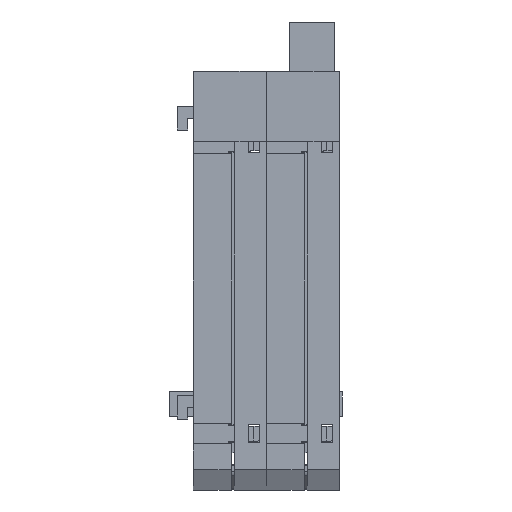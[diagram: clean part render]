
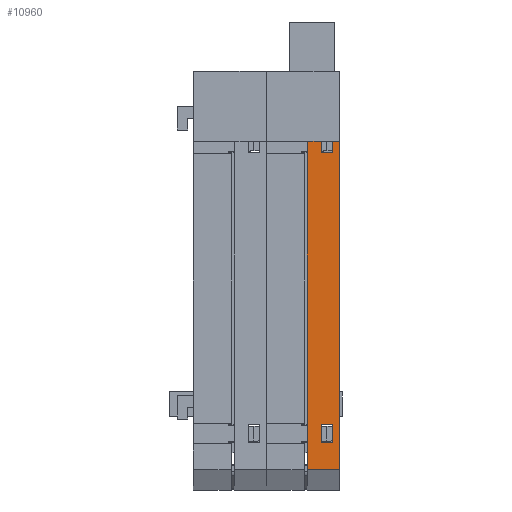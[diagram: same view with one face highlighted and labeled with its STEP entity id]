
A CAD part, front view. The second image highlights one B-rep face of the part: STEP entity #10960.
In plain terms, the highlighted planar face has unit normal (0, -1, 0).
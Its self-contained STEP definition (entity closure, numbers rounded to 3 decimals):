
#292 = ORIENTED_EDGE ( 'NONE', *, *, #30344, .T. ) ;
#1549 = CARTESIAN_POINT ( 'NONE',  ( 5.5, 0., 0. ) ) ;
#2858 = VECTOR ( 'NONE', #25573, 1000. ) ;
#3030 = LINE ( 'NONE', #31835, #28024 ) ;
#3092 = EDGE_CURVE ( 'NONE', #30986, #12986, #29943, .T. ) ;
#3190 = DIRECTION ( 'NONE',  ( 1., 0., 0. ) ) ;
#4484 = CARTESIAN_POINT ( 'NONE',  ( 2.4, 0., -7.845 ) ) ;
#4517 = CARTESIAN_POINT ( 'NONE',  ( 2.4, 0., -10.945 ) ) ;
#5384 = DIRECTION ( 'NONE',  ( 0., 0., 1. ) ) ;
#7336 = VECTOR ( 'NONE', #33140, 1000. ) ;
#8278 = VECTOR ( 'NONE', #22503, 1000. ) ;
#8928 = ORIENTED_EDGE ( 'NONE', *, *, #45603, .T. ) ;
#8966 = EDGE_LOOP ( 'NONE', ( #10527, #33510, #46599, #15427 ) ) ;
#9002 = EDGE_CURVE ( 'NONE', #32105, #30986, #3030, .T. ) ;
#9016 = ORIENTED_EDGE ( 'NONE', *, *, #24546, .F. ) ;
#9381 = DIRECTION ( 'NONE',  ( 0., 0., -1. ) ) ;
#9889 = CARTESIAN_POINT ( 'NONE',  ( 4.4, 0., -60.645 ) ) ;
#10527 = ORIENTED_EDGE ( 'NONE', *, *, #31301, .T. ) ;
#10641 = VECTOR ( 'NONE', #46235, 1000. ) ;
#10960 = ADVANCED_FACE ( 'NONE', ( #24443, #39907, #37001 ), #35329, .F. ) ;
#11100 = EDGE_LOOP ( 'NONE', ( #292, #9016, #28479, #8928 ) ) ;
#11451 = VECTOR ( 'NONE', #43944, 1000. ) ;
#11629 = CARTESIAN_POINT ( 'NONE',  ( 5.5, 0., -65.25 ) ) ;
#11921 = VECTOR ( 'NONE', #44932, 1000. ) ;
#12331 = CARTESIAN_POINT ( 'NONE',  ( 2.4, 0., -57.545 ) ) ;
#12514 = LINE ( 'NONE', #42953, #41429 ) ;
#12970 = CARTESIAN_POINT ( 'NONE',  ( 5.5, 0., 0. ) ) ;
#12986 = VERTEX_POINT ( 'NONE', #37970 ) ;
#13066 = VERTEX_POINT ( 'NONE', #4484 ) ;
#13189 = ORIENTED_EDGE ( 'NONE', *, *, #42218, .T. ) ;
#14358 = DIRECTION ( 'NONE',  ( 0., 0., -1. ) ) ;
#15427 = ORIENTED_EDGE ( 'NONE', *, *, #21725, .T. ) ;
#15434 = VECTOR ( 'NONE', #14358, 1000. ) ;
#17948 = LINE ( 'NONE', #11629, #26768 ) ;
#18025 = CARTESIAN_POINT ( 'NONE',  ( 2.4, 0., -10.945 ) ) ;
#18137 = CARTESIAN_POINT ( 'NONE',  ( 2.4, 0., -7.845 ) ) ;
#18261 = CARTESIAN_POINT ( 'NONE',  ( 0., 0., 0. ) ) ;
#18627 = CARTESIAN_POINT ( 'NONE',  ( 4.4, 0., -57.545 ) ) ;
#18651 = VECTOR ( 'NONE', #3190, 1000. ) ;
#19348 = CARTESIAN_POINT ( 'NONE',  ( 4.4, 0., -10.945 ) ) ;
#21328 = VECTOR ( 'NONE', #38735, 1000. ) ;
#21668 = LINE ( 'NONE', #44473, #2858 ) ;
#21725 = EDGE_CURVE ( 'NONE', #29976, #43153, #40400, .T. ) ;
#22238 = AXIS2_PLACEMENT_3D ( 'NONE', #1549, #27832, #5384 ) ;
#22503 = DIRECTION ( 'NONE',  ( -1., 0., 0. ) ) ;
#22696 = EDGE_CURVE ( 'NONE', #39646, #27577, #31310, .T. ) ;
#22922 = DIRECTION ( 'NONE',  ( -1., 0., 0. ) ) ;
#23358 = CARTESIAN_POINT ( 'NONE',  ( 4.4, 0., -7.845 ) ) ;
#24443 = FACE_BOUND ( 'NONE', #45348, .T. ) ;
#24546 = EDGE_CURVE ( 'NONE', #28331, #47523, #17948, .T. ) ;
#25573 = DIRECTION ( 'NONE',  ( -1., 0., 0. ) ) ;
#26596 = EDGE_CURVE ( 'NONE', #40722, #28331, #12514, .T. ) ;
#26652 = CARTESIAN_POINT ( 'NONE',  ( 0., 0., 0. ) ) ;
#26768 = VECTOR ( 'NONE', #22922, 1000. ) ;
#26945 = VERTEX_POINT ( 'NONE', #26652 ) ;
#27577 = VERTEX_POINT ( 'NONE', #12331 ) ;
#27832 = DIRECTION ( 'NONE',  ( 0., 1., 0. ) ) ;
#28024 = VECTOR ( 'NONE', #9381, 1000. ) ;
#28331 = VERTEX_POINT ( 'NONE', #32325 ) ;
#28460 = EDGE_CURVE ( 'NONE', #27577, #29976, #38813, .T. ) ;
#28479 = ORIENTED_EDGE ( 'NONE', *, *, #26596, .F. ) ;
#29623 = CARTESIAN_POINT ( 'NONE',  ( 5.5, 0., 0. ) ) ;
#29943 = LINE ( 'NONE', #18025, #8278 ) ;
#29976 = VERTEX_POINT ( 'NONE', #18627 ) ;
#30344 = EDGE_CURVE ( 'NONE', #26945, #47523, #44413, .T. ) ;
#30986 = VERTEX_POINT ( 'NONE', #19348 ) ;
#31301 = EDGE_CURVE ( 'NONE', #43153, #39646, #21668, .T. ) ;
#31310 = LINE ( 'NONE', #34904, #21328 ) ;
#31835 = CARTESIAN_POINT ( 'NONE',  ( 4.4, 0., -10.945 ) ) ;
#31900 = LINE ( 'NONE', #29623, #11921 ) ;
#31977 = CARTESIAN_POINT ( 'NONE',  ( 2.4, 0., -60.645 ) ) ;
#32105 = VERTEX_POINT ( 'NONE', #23358 ) ;
#32325 = CARTESIAN_POINT ( 'NONE',  ( 5.5, 0., -65.25 ) ) ;
#33140 = DIRECTION ( 'NONE',  ( 1., 0., 0. ) ) ;
#33191 = ORIENTED_EDGE ( 'NONE', *, *, #3092, .T. ) ;
#33510 = ORIENTED_EDGE ( 'NONE', *, *, #22696, .T. ) ;
#34904 = CARTESIAN_POINT ( 'NONE',  ( 2.4, 0., -60.645 ) ) ;
#35329 = PLANE ( 'NONE',  #22238 ) ;
#36204 = LINE ( 'NONE', #18137, #7336 ) ;
#37001 = FACE_OUTER_BOUND ( 'NONE', #11100, .T. ) ;
#37970 = CARTESIAN_POINT ( 'NONE',  ( 2.4, 0., -10.945 ) ) ;
#38735 = DIRECTION ( 'NONE',  ( 0., 0., 1. ) ) ;
#38813 = LINE ( 'NONE', #48473, #18651 ) ;
#39646 = VERTEX_POINT ( 'NONE', #31977 ) ;
#39907 = FACE_BOUND ( 'NONE', #8966, .T. ) ;
#40008 = EDGE_CURVE ( 'NONE', #12986, #13066, #40725, .T. ) ;
#40134 = CARTESIAN_POINT ( 'NONE',  ( 4.4, 0., -60.645 ) ) ;
#40400 = LINE ( 'NONE', #40134, #11451 ) ;
#40408 = ORIENTED_EDGE ( 'NONE', *, *, #40008, .T. ) ;
#40722 = VERTEX_POINT ( 'NONE', #12970 ) ;
#40725 = LINE ( 'NONE', #4517, #10641 ) ;
#40765 = ORIENTED_EDGE ( 'NONE', *, *, #9002, .T. ) ;
#41429 = VECTOR ( 'NONE', #46806, 1000. ) ;
#42218 = EDGE_CURVE ( 'NONE', #13066, #32105, #36204, .T. ) ;
#42953 = CARTESIAN_POINT ( 'NONE',  ( 5.5, 0., 0. ) ) ;
#43153 = VERTEX_POINT ( 'NONE', #9889 ) ;
#43944 = DIRECTION ( 'NONE',  ( 0., 0., -1. ) ) ;
#44413 = LINE ( 'NONE', #18261, #15434 ) ;
#44473 = CARTESIAN_POINT ( 'NONE',  ( 2.4, 0., -60.645 ) ) ;
#44932 = DIRECTION ( 'NONE',  ( -1., 0., 0. ) ) ;
#45348 = EDGE_LOOP ( 'NONE', ( #40408, #13189, #40765, #33191 ) ) ;
#45603 = EDGE_CURVE ( 'NONE', #40722, #26945, #31900, .T. ) ;
#45657 = CARTESIAN_POINT ( 'NONE',  ( 0., 0., -65.25 ) ) ;
#46235 = DIRECTION ( 'NONE',  ( 0., 0., 1. ) ) ;
#46599 = ORIENTED_EDGE ( 'NONE', *, *, #28460, .T. ) ;
#46806 = DIRECTION ( 'NONE',  ( 0., 0., -1. ) ) ;
#47523 = VERTEX_POINT ( 'NONE', #45657 ) ;
#48473 = CARTESIAN_POINT ( 'NONE',  ( 2.4, 0., -57.545 ) ) ;
